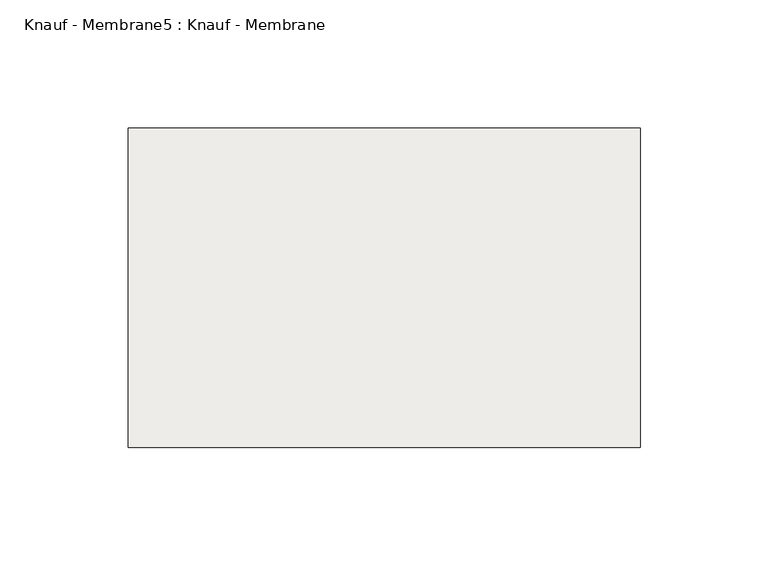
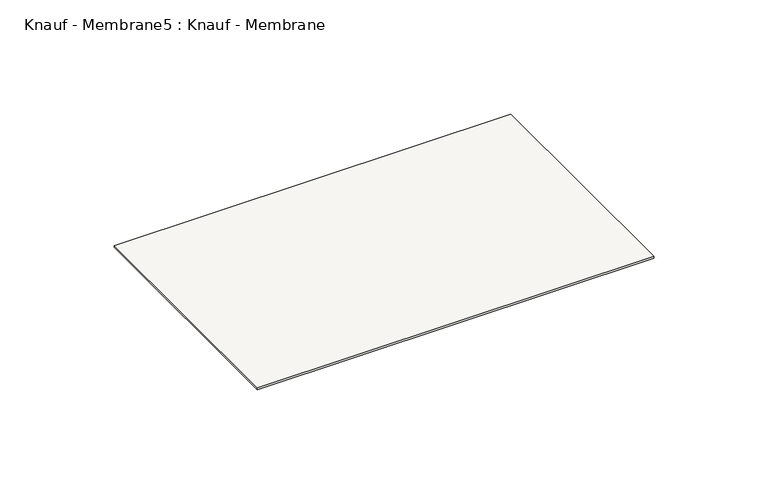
"""IFC4 building model written with IfcOpenShell, lengths in millimetres: slab geometry, Knauf - Membrane5 : Knauf - Membrane."""

import ifcopenshell
import ifcopenshell.guid

model = None  # the IFC model being written
_history = None  # IfcOwnerHistory: only IFC2X3 demands one
_inside = {}  # id of a spatial element -> (the spatial element, [elements in it])
_under = {}  # id of a project, library or spatial element -> (it, [spatial elements below it])
_declared = {}  # id of a project -> (the project, [libraries it declares])
_typed = {}  # id of a type object -> (the type object, [elements of that type])
_made_of = {}  # id of a material, layer set ... -> (it, [elements and type objects made of it])


def new_model(schema):
    """Start an empty IFC model of exactly this schema.

    Asked for "IFC4X3", IfcOpenShell would pick the latest addendum, in which some entities
    have other attributes; the version numbers below select the first issue.
    IFC2X3 requires an IfcOwnerHistory on every rooted entity: one is made here for all.
    """
    global model, _history
    if schema == "IFC4X3":
        model = ifcopenshell.file(schema_version=(4, 3, 0, 0))
    else:
        model = ifcopenshell.file(schema=schema)
    _inside.clear()
    _under.clear()
    _declared.clear()
    _typed.clear()
    _made_of.clear()
    _history = None
    if model.schema == "IFC2X3":
        org = make("IfcOrganization", Name="unknown")
        user = make(
            "IfcPersonAndOrganization",
            ThePerson=make("IfcPerson", FamilyName="unknown"),
            TheOrganization=org,
        )
        app = make(
            "IfcApplication",
            ApplicationDeveloper=org,
            Version="unknown",
            ApplicationFullName="unknown",
            ApplicationIdentifier="unknown",
        )
        _history = make(
            "IfcOwnerHistory",
            OwningUser=user,
            OwningApplication=app,
            ChangeAction="ADDED",
            CreationDate=0,
        )
    return model


def make(cls, **values):
    """One entity of the class cls with the attributes given. An attribute that is None is left unset."""
    return model.create_entity(
        cls, **{name: value for name, value in values.items() if value is not None}
    )


def rooted(cls, **values):
    """An entity with a GlobalId (a new one), such as an element, a storey or a relation."""
    return make(cls, GlobalId=ifcopenshell.guid.new(), OwnerHistory=_history, **values)


def si_unit(unit_type, name, prefix=None):
    """IfcSIUnit, for example si_unit("LENGTHUNIT", "METRE", prefix="MILLI")."""
    return make("IfcSIUnit", UnitType=unit_type, Prefix=prefix, Name=name)


def assignment(units):
    """IfcUnitAssignment: the units of a project."""
    return None if units is None else make("IfcUnitAssignment", Units=units)


def point(xyz):
    """IfcCartesianPoint."""
    return None if xyz is None else make("IfcCartesianPoint", Coordinates=xyz)


def direction(xyz):
    """IfcDirection."""
    return None if xyz is None else make("IfcDirection", DirectionRatios=xyz)


def frame(location, z_axis=None, x_axis=None):
    """IfcAxis2Placement3D, a coordinate frame: its origin and axes. An axis left out is left unset."""
    return make(
        "IfcAxis2Placement3D",
        Location=point(location),
        Axis=direction(z_axis),
        RefDirection=direction(x_axis),
    )


def origin():
    """The frame at (0, 0, 0) with its axes left unset."""
    return frame((0.0, 0.0, 0.0))


def place(relative_to, where):
    """IfcLocalPlacement: puts the frame where relative to a parent placement (None: the world)."""
    return make(
        "IfcLocalPlacement", PlacementRelTo=relative_to, RelativePlacement=where
    )


def context(
    kind, dimensions, precision=None, world=None, true_north=None, identifier=None
):
    """IfcGeometricRepresentationContext, for example the 3D "Model" context."""
    return make(
        "IfcGeometricRepresentationContext",
        ContextIdentifier=identifier,
        ContextType=kind,
        CoordinateSpaceDimension=dimensions,
        Precision=precision,
        WorldCoordinateSystem=world,
        TrueNorth=true_north,
    )


def project(units=None, contexts=None):
    """IfcProject with its units and contexts."""
    return rooted(
        "IfcProject",
        Name="project",
        RepresentationContexts=contexts,
        UnitsInContext=assignment(units),
    )


def spatial(cls, under=None, at=None, **own):
    """A site, building, storey or space (cls), placed at a placement, below another one or the project."""
    s = rooted(cls, ObjectPlacement=at, **own)
    if under is not None:
        _under.setdefault(under.id(), (under, []))[1].append(s)
    return s


def polyline(points):
    """IfcPolyline through the points."""
    return make("IfcPolyline", Points=[point(p) for p in points])


def outline(outer, holes=None, kind="AREA"):
    """IfcArbitraryClosedProfileDef: a profile drawn as a closed curve; with holes, ...WithVoids."""
    if holes is None:
        return make("IfcArbitraryClosedProfileDef", ProfileType=kind, OuterCurve=outer)
    return make(
        "IfcArbitraryProfileDefWithVoids",
        ProfileType=kind,
        OuterCurve=outer,
        InnerCurves=holes,
    )


def extrude(swept, where, along, depth):
    """IfcExtrudedAreaSolid: the profile swept, set in the frame where, extruded along a direction by depth."""
    return make(
        "IfcExtrudedAreaSolid",
        SweptArea=swept,
        Position=where,
        ExtrudedDirection=direction(along),
        Depth=depth,
    )


def shape(context_of_items, identifier, shape_type, items):
    """IfcShapeRepresentation: the items that make up one representation, for example the "Body"."""
    return make(
        "IfcShapeRepresentation",
        ContextOfItems=context_of_items,
        RepresentationIdentifier=identifier,
        RepresentationType=shape_type,
        Items=items,
    )


def source(mapping_origin, context_of_items, identifier, shape_type, items):
    """IfcRepresentationMap: a shape defined once, which mapped items show again and again."""
    return make(
        "IfcRepresentationMap",
        MappingOrigin=mapping_origin,
        MappedRepresentation=shape(context_of_items, identifier, shape_type, items),
    )


def transform(
    local_origin,
    x_axis=None,
    y_axis=None,
    z_axis=None,
    scale=None,
    scale2=None,
    scale3=None,
    uniform=True,
):
    """IfcCartesianTransformationOperator3D, or its non-uniform kind. x_axis, y_axis, z_axis: its Axis1, 2, 3."""
    if uniform:
        return make(
            "IfcCartesianTransformationOperator3D",
            Axis1=direction(x_axis),
            Axis2=direction(y_axis),
            LocalOrigin=point(local_origin),
            Scale=scale,
            Axis3=direction(z_axis),
        )
    return make(
        "IfcCartesianTransformationOperator3DnonUniform",
        Axis1=direction(x_axis),
        Axis2=direction(y_axis),
        LocalOrigin=point(local_origin),
        Scale=scale,
        Axis3=direction(z_axis),
        Scale2=scale2,
        Scale3=scale3,
    )


def mapped(mapping_source, mapping_target):
    """IfcMappedItem: shows the shape of a source again, moved by a transform."""
    return make(
        "IfcMappedItem", MappingSource=mapping_source, MappingTarget=mapping_target
    )


def made_of(thing, what):
    """Note that an element or type object is made of a material, layer set ...; save() writes the relation."""
    if what is not None:
        _made_of.setdefault(what.id(), (what, []))[1].append(thing)
    return thing


def element(
    cls,
    number,
    at=None,
    inside=None,
    cuts=None,
    type_object=None,
    material=None,
    context=None,
    identifier="Body",
    shape_type=None,
    held_by="IfcProductDefinitionShape",
    body=None,
    shapes=None,
    **own,
):
    """One element of the class cls, such as IfcWall. Its Tag is "e" and its number.

    at: its placement. inside: the storey or other place that contains it. cuts: it is an
    opening in that element (IfcRelVoidsElement). A single representation is given by context,
    identifier, shape_type and body (its items); several are given by shapes. held_by: the class
    of the entity that holds the representations. save() writes the other relations.
    """
    e = rooted(cls, Tag="e%d" % number, ObjectPlacement=at, **own)
    if body is not None:
        shapes = [shape(context, identifier, shape_type, body)]
    if shapes is not None:
        e.Representation = make(held_by, Representations=shapes)
    if inside is not None:
        _inside.setdefault(inside.id(), (inside, []))[1].append(e)
    if cuts is not None:
        rooted(
            "IfcRelVoidsElement", RelatingBuildingElement=cuts, RelatedOpeningElement=e
        )
    if type_object is not None:
        _typed.setdefault(type_object.id(), (type_object, []))[1].append(e)
    return made_of(e, material)


def aggregate(whole, parts):
    """IfcRelAggregates: a whole, such as a stair, and the parts it consists of."""
    return rooted("IfcRelAggregates", RelatingObject=whole, RelatedObjects=parts)


def save(model, path):
    """Write the relations noted so far, then the file.

    IfcRelAggregates (storeys below a building ...), IfcRelContainedInSpatialStructure (elements
    in a storey), IfcRelDefinesByType, IfcRelAssociatesMaterial and IfcRelDeclares: one each for
    every whole, place, type object, material and project.
    """
    for whole, parts in _under.values():
        aggregate(whole, parts)
    for where, things in _inside.values():
        rooted(
            "IfcRelContainedInSpatialStructure",
            RelatedElements=things,
            RelatingStructure=where,
        )
    for kind, things in _typed.values():
        rooted("IfcRelDefinesByType", RelatedObjects=things, RelatingType=kind)
    for what, things in _made_of.values():
        rooted("IfcRelAssociatesMaterial", RelatedObjects=things, RelatingMaterial=what)
    for by, libraries in _declared.values():
        rooted("IfcRelDeclares", RelatingContext=by, RelatedDefinitions=libraries)
    model.write(path)


def knauf_membrane5_knauf_membrane_06b32972(model_context):
    return source(origin(), model_context, "Body", "SweptSolid", [
        extrude(outline(polyline([(19566.285179, 15301.9464372), (19766.285179, 15301.9464372), (19766.285179, 15176.9464372), (19566.285179, 15176.9464372), (19566.285179, 15301.9464372)])), frame((0.0, 0.0, 13.0), z_axis=(0.0, 0.0, 1.0), x_axis=(1.0, 0.0, 0.0)), (0.0, 0.0, 1.0), 1.0),
    ])


if __name__ == "__main__":
    model = new_model("IFC4")
    model_context = context("Model", 3, world=origin())
    ifc_project = project(units=[si_unit("LENGTHUNIT", "METRE", prefix="MILLI")], contexts=[model_context])
    site = spatial("IfcSite", under=ifc_project)
    building = spatial("IfcBuilding", under=site)
    placement = place(None, origin())
    knauf_membrane5_knauf_membrane_shape = knauf_membrane5_knauf_membrane_06b32972(model_context)
    element("IfcSlab", 1, ObjectType="Knauf - Membrane5 : Knauf - Membrane", at=placement, inside=building, context=model_context, shape_type="MappedRepresentation", body=[
        mapped(knauf_membrane5_knauf_membrane_shape, transform((0.0, 0.0, 0.0), x_axis=(1.0, 0.0, 0.0), y_axis=(0.0, 1.0, 0.0), z_axis=(0.0, 0.0, 1.0))),
    ])
    save(model, "model.ifc")
